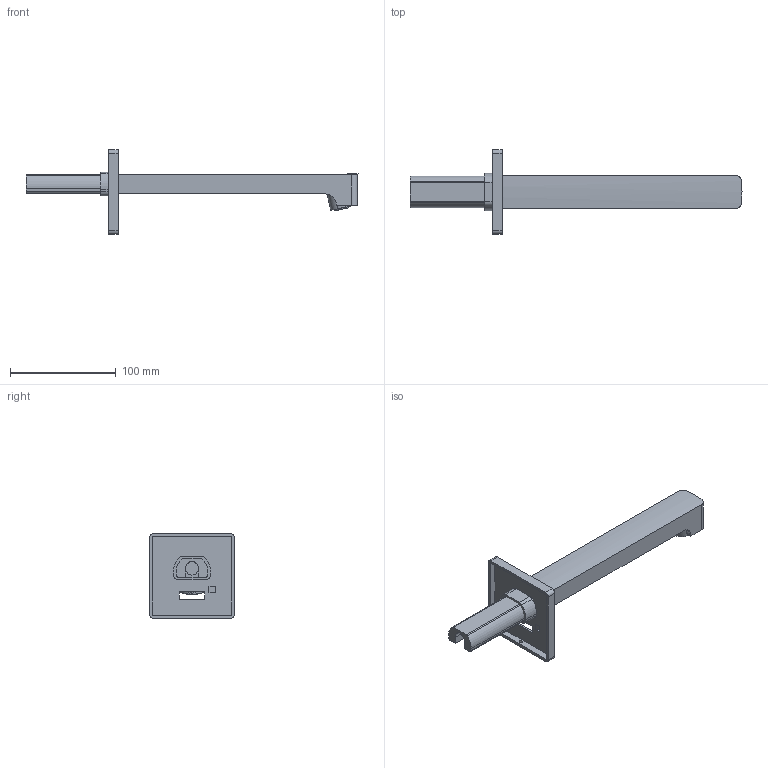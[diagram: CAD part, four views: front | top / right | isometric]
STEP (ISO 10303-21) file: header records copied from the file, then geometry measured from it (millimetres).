
FILE_DESCRIPTION(/* description */ (''),/* implementation_level */ '2;1');
FILE_NAME(/* name */ 'G:\WM_GmbH\Planerdaten\Work\EXPORT\Fertig zum Export\Waschtischarmaturen\stp\116295.stp',/* time_stamp */ '2017-07-13T09:28:39+02:00',/* author */ ('seihe2'),/* organization */ (''),/* preprocessor_version */ 'ST-DEVELOPER v15.2',/* originating_system */ 'Autodesk Inventor 2014',/* authorisation */ '');
FILE_SCHEMA (('AUTOMOTIVE_DESIGN { 1 0 10303 214 3 1 1 }'));
Length unit declared in the file: millimetre
Products named in the file (1): 116295
Bounding box: 313.5 x 80 x 80 mm (x, y, z)
Volume: 124691.3 mm3; surface area: 77135.9 mm2
Topology: 6 solids, 6 shells, 681 faces, 1862 edges, 1198 vertices
Faces by surface type: plane 473, cylinder 137, cone 47, bspline 19, torus 4, sphere 1
Full cylindrical faces by diameter (mm): 3.242 x1, 12.2 x1
Entity records: 23862 total; most frequent: CARTESIAN_POINT 5910, DIRECTION 3718, ORIENTED_EDGE 3700, EDGE_CURVE 1850, AXIS2_PLACEMENT_3D 1425, VERTEX_POINT 1193, LINE 868, VECTOR 868
